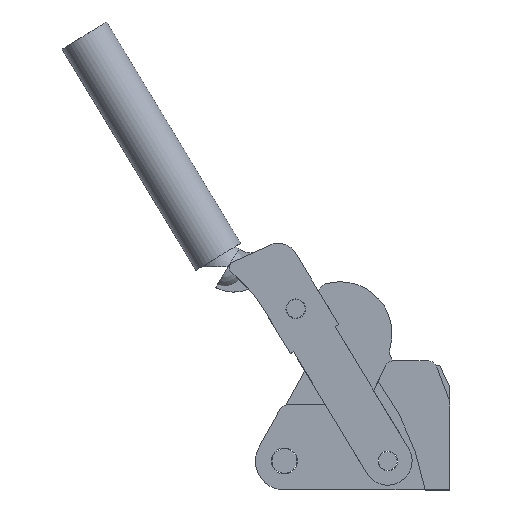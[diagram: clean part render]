
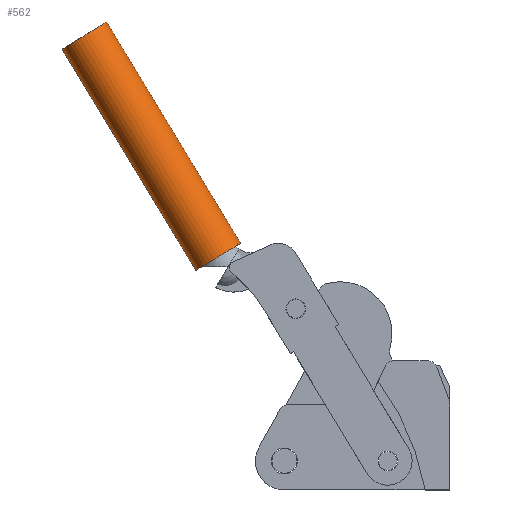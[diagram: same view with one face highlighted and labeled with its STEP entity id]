
A CAD part, top view. The second image highlights one B-rep face of the part: STEP entity #562.
In plain terms, the highlighted cylindrical face has radius 12.827 mm (diameter 25.654 mm), a partial arc.
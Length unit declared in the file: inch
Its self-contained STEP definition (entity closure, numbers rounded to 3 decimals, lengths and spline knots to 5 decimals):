
#562 = ADVANCED_FACE( '', ( #892 ), #893, .T. );
#892 = FACE_OUTER_BOUND( '', #1348, .T. );
#893 = CYLINDRICAL_SURFACE( '', #1349, 0.505 );
#1348 = EDGE_LOOP( '', ( #2401, #2402, #2403, #2404 ) );
#1349 = AXIS2_PLACEMENT_3D( '', #2405, #2406, #2407 );
#2401 = ORIENTED_EDGE( '', *, *, #3564, .F. );
#2402 = ORIENTED_EDGE( '', *, *, #3565, .T. );
#2403 = ORIENTED_EDGE( '', *, *, #3566, .F. );
#2404 = ORIENTED_EDGE( '', *, *, #3567, .F. );
#2405 = CARTESIAN_POINT( '', ( -7.19595, 9.00177, 0. ) );
#2406 = DIRECTION( '', ( 0.518, -0.856, 0. ) );
#2407 = DIRECTION( '', ( 0.856, 0.518, 0. ) );
#3564 = EDGE_CURVE( '', #4286, #4287, #4288, .T. );
#3565 = EDGE_CURVE( '', #4286, #4289, #4290, .T. );
#3566 = EDGE_CURVE( '', #4291, #4289, #4292, .T. );
#3567 = EDGE_CURVE( '', #4287, #4291, #4293, .T. );
#4286 = VERTEX_POINT( '', #5406 );
#4287 = VERTEX_POINT( '', #5407 );
#4288 = LINE( '', #5408, #5409 );
#4289 = VERTEX_POINT( '', #5410 );
#4290 = CIRCLE( '', #5411, 0.505 );
#4291 = VERTEX_POINT( '', #5412 );
#4292 = LINE( '', #5413, #5414 );
#4293 = CIRCLE( '', #5415, 0.505 );
#5406 = CARTESIAN_POINT( '', ( -6.63446, 9.0493, 0. ) );
#5407 = CARTESIAN_POINT( '', ( -4.04613, 4.77139, 0. ) );
#5408 = CARTESIAN_POINT( '', ( -6.76388, 9.26319, 0. ) );
#5409 = VECTOR( '', #6533, 1. );
#5410 = CARTESIAN_POINT( '', ( -7.4986, 8.52645, 0. ) );
#5411 = AXIS2_PLACEMENT_3D( '', #6534, #6535, #6536 );
#5412 = CARTESIAN_POINT( '', ( -4.91026, 4.24854, 0. ) );
#5413 = CARTESIAN_POINT( '', ( -7.62802, 8.74035, 0. ) );
#5414 = VECTOR( '', #6537, 1. );
#5415 = AXIS2_PLACEMENT_3D( '', #6538, #6539, #6540 );
#6533 = DIRECTION( '', ( 0.518, -0.856, 0. ) );
#6534 = CARTESIAN_POINT( '', ( -7.06653, 8.78787, 0. ) );
#6535 = DIRECTION( '', ( 0.518, -0.856, 0. ) );
#6536 = DIRECTION( '', ( 0.856, 0.518, 0. ) );
#6537 = DIRECTION( '', ( -0.518, 0.856, 0. ) );
#6538 = CARTESIAN_POINT( '', ( -4.4782, 4.50996, 0. ) );
#6539 = DIRECTION( '', ( 0.518, -0.856, 0. ) );
#6540 = DIRECTION( '', ( 0.856, 0.518, 0. ) );
